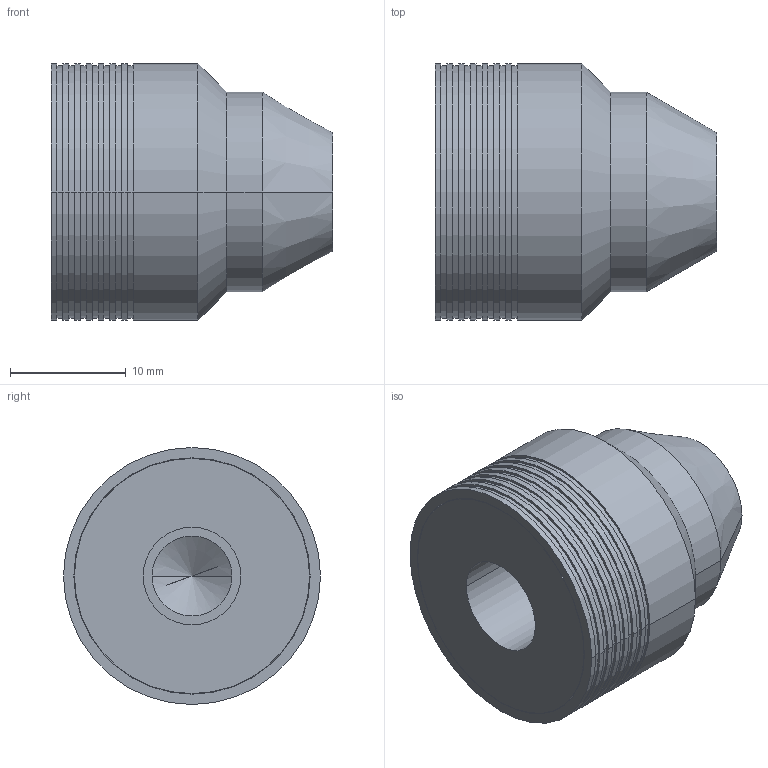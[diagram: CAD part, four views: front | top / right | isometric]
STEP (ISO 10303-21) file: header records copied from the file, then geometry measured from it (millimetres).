
FILE_DESCRIPTION(('CoCreate Modeling STEP Export'),'2;1');
FILE_NAME('PLRA8750010A.stp','2012-01-10T10:51:51',(''),(''),'CoCreate Modeling STEP processor for AP214 (Solid Model)','CoCreate Modeling 17.0 01-Apr-2010 (C) Parametric Technology GmbH','');
FILE_SCHEMA(('AUTOMOTIVE_DESIGN { 1 0 10303 214 1 1 1 1 }'));
Length unit declared in the file: millimetre
Products named in the file (1): PLRA8750010A
Bounding box: 24.38 x 22.23 x 22.23 mm (x, y, z)
Volume: 6320.3 mm3; surface area: 2748.8 mm2
Topology: 1 solids, 1 shells, 64 faces, 168 edges, 121 vertices
Faces by surface type: cylinder 38, plane 18, cone 8
Entity records: 2097 total; most frequent: ORIENTED_EDGE 332, CARTESIAN_POINT 249, DIRECTION 210, EDGE_CURVE 166, VERTEX_POINT 121, AXIS2_PLACEMENT_3D 82, EDGE_LOOP 81, COLOUR_RGB 65
